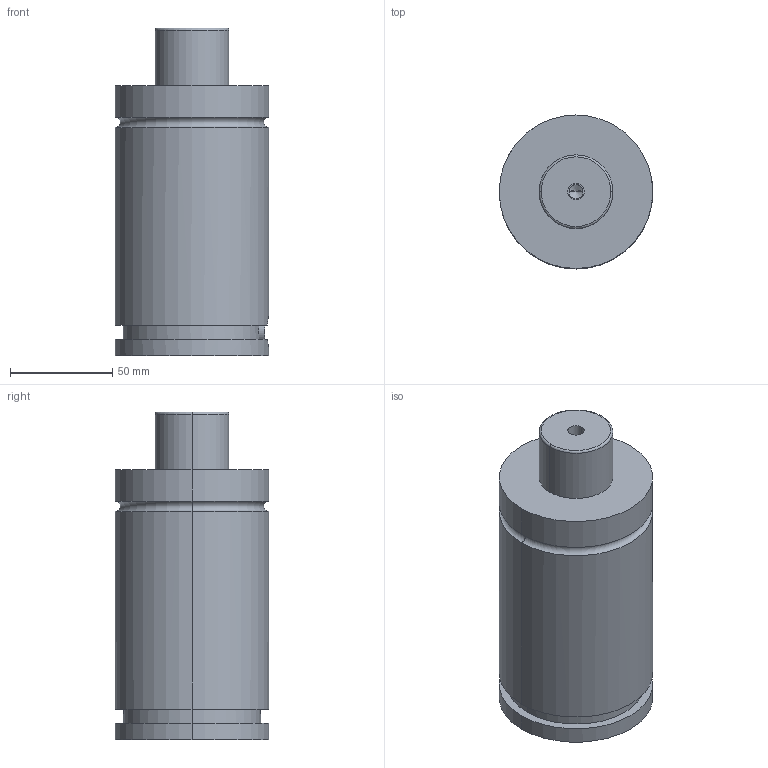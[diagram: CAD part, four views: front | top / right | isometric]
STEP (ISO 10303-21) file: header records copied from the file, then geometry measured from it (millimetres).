
FILE_DESCRIPTION(/* description */ (''),/* implementation_level */ '2;1');
FILE_NAME(/* name */ '3d_gse75-25_03855_r00.stp',/* time_stamp */ '2011-01-10T14:15:18+09:00',/* author */ ('MISUMI'),/* organization */ (''),/* preprocessor_version */ 'ST-DEVELOPER v11',/* originating_system */ 'UGS - NX 5.0',/* authorisation */ '');
FILE_SCHEMA (('CONFIG_CONTROL_DESIGN'));
Length unit declared in the file: millimetre
Products named in the file (1): 3d_gse75-25_03855_r00
Bounding box: 75 x 75 x 160 mm (x, y, z)
Volume: 598462 mm3; surface area: 47726 mm2
Topology: 1 solids, 1 shells, 75 faces, 161 edges, 103 vertices
Faces by surface type: cylinder 34, plane 27, cone 10, torus 4
Entity records: 2145 total; most frequent: DIRECTION 393, CARTESIAN_POINT 360, ORIENTED_EDGE 318, AXIS2_PLACEMENT_3D 164, EDGE_CURVE 159, VERTEX_POINT 103, EDGE_LOOP 92, CIRCLE 88
